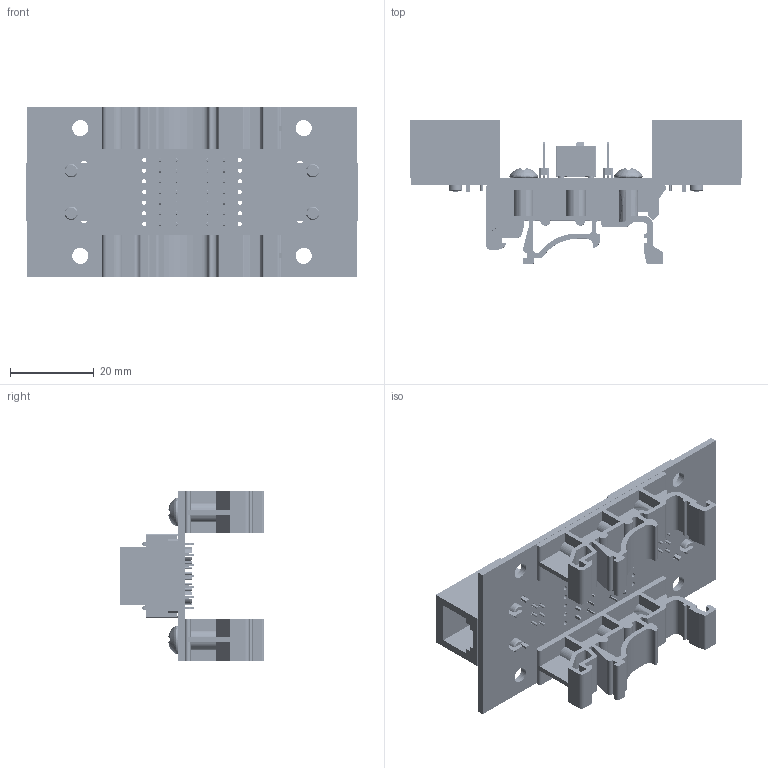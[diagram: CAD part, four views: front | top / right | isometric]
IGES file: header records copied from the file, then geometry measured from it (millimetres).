
Start section: SolidWorks IGES file using analytic representation for surfaces
Global section: file name: W:\end-user\products\bts\bts6p6csj-r\3dmodel\rev_a\render\bts6p6csj-r-din_rev_a.igs; native system: SolidWorks 2018; preprocessor: SolidWorks 2018; author: leviroy; date: 220104.085732; units: inch
Bounding box: 79.25 x 34.53 x 40.64 mm (x, y, z)
Surface area: 24801 mm2 (no closed solid volume)
Topology: 0 solids, 0 shells, 3995 faces, 37865 edges, 37865 vertices
Faces by surface type: bspline 3323, revolution 672
